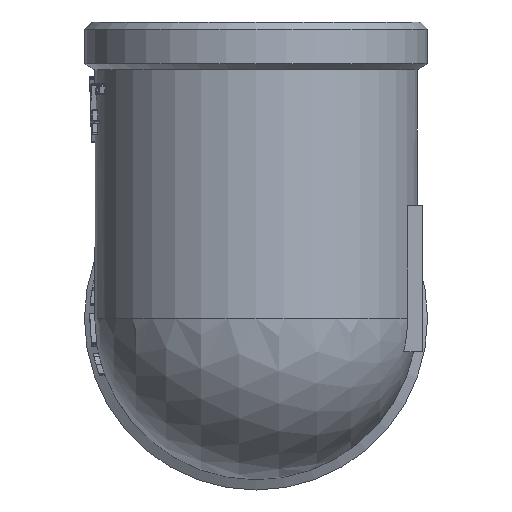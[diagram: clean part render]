
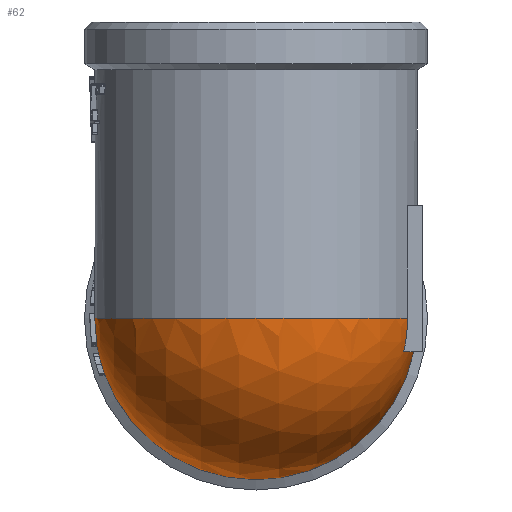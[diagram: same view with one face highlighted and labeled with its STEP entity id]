
A CAD part, front view. The second image highlights one B-rep face of the part: STEP entity #62.
In plain terms, the highlighted spherical face has radius 15.5 mm.
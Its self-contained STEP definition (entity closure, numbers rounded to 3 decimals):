
#62=ADVANCED_FACE('',(#427),#429,.T.);
#427=FACE_BOUND('',#428,.T.);
#428=EDGE_LOOP('',(#2380,#2381,#2382,#2383));
#429=SPHERICAL_SURFACE('',#430,15.5);
#430=AXIS2_PLACEMENT_3D('',#431,#432,#433);
#431=CARTESIAN_POINT('',(0.,0.,0.));
#432=DIRECTION('',(-1.,0.,0.));
#433=DIRECTION('',(0.,0.,-1.));
#2380=ORIENTED_EDGE('',*,*,#4143,.F.);
#2381=ORIENTED_EDGE('',*,*,#4137,.F.);
#2382=ORIENTED_EDGE('',*,*,#4149,.F.);
#2383=ORIENTED_EDGE('',*,*,#4150,.F.);
#4137=EDGE_CURVE('',#4861,#4862,#4863,.T.);
#4143=EDGE_CURVE('',#4862,#4868,#4872,.F.);
#4149=EDGE_CURVE('',#4881,#4861,#4882,.T.);
#4150=EDGE_CURVE('',#4868,#4881,#4883,.F.);
#4861=VERTEX_POINT('',#6106);
#4862=VERTEX_POINT('',#6107);
#4863=CIRCLE('',#6108,14.566);
#4868=VERTEX_POINT('',#6122);
#4872=CIRCLE('',#6130,15.166);
#4881=VERTEX_POINT('',#6189);
#4882=CIRCLE('',#6190,15.5);
#4883=CIRCLE('',#6194,15.5);
#6106=CARTESIAN_POINT('',(14.566,-5.3,0.));
#6107=CARTESIAN_POINT('',(14.21,-5.3,-3.2));
#6108=AXIS2_PLACEMENT_3D('',#6109,#6110,#6111);
#6109=CARTESIAN_POINT('',(0.,-5.3,0.));
#6110=DIRECTION('',(0.,1.,0.));
#6111=DIRECTION('',(1.,0.,0.));
#6122=CARTESIAN_POINT('',(15.166,0.,-3.2));
#6130=AXIS2_PLACEMENT_3D('',#6131,#6132,#6133);
#6131=CARTESIAN_POINT('',(0.,0.,-3.2));
#6132=DIRECTION('',(0.,0.,-1.));
#6133=DIRECTION('',(1.,0.,0.));
#6189=CARTESIAN_POINT('',(-15.5,0.,0.));
#6190=AXIS2_PLACEMENT_3D('',#6191,#6192,#6193);
#6191=CARTESIAN_POINT('',(0.,0.,0.));
#6192=DIRECTION('',(0.,0.,1.));
#6193=DIRECTION('',(-1.,0.,0.));
#6194=AXIS2_PLACEMENT_3D('',#6195,#6196,#6197);
#6195=CARTESIAN_POINT('',(0.,0.,0.));
#6196=DIRECTION('',(0.,-1.,0.));
#6197=DIRECTION('',(-1.,0.,0.));
